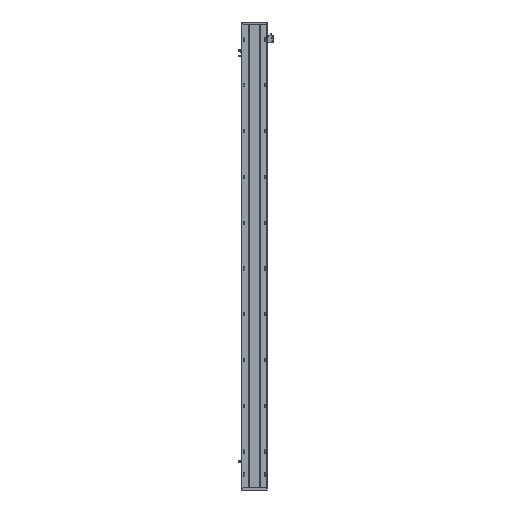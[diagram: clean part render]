
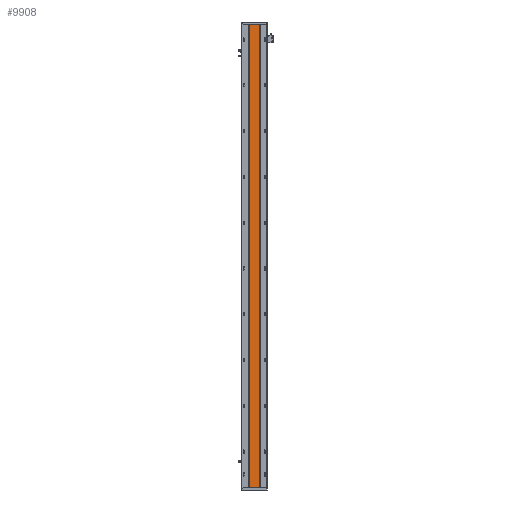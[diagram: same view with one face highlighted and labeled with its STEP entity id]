
A CAD part, front view. The second image highlights one B-rep face of the part: STEP entity #9908.
In plain terms, the highlighted planar face has unit normal (0, -1, 0).
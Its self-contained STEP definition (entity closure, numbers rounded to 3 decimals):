
#1678 = DIRECTION ( 'NONE',  ( 1., 0., 0. ) ) ;
#2085 = EDGE_CURVE ( 'NONE', #21412, #3295, #4440, .T. ) ;
#2773 = LINE ( 'NONE', #11356, #29026 ) ;
#3295 = VERTEX_POINT ( 'NONE', #11452 ) ;
#4440 = LINE ( 'NONE', #27009, #28061 ) ;
#4696 = EDGE_LOOP ( 'NONE', ( #18002, #14760, #18946, #8602 ) ) ;
#6828 = DIRECTION ( 'NONE',  ( 0., 0., -1. ) ) ;
#6859 = FACE_OUTER_BOUND ( 'NONE', #4696, .T. ) ;
#6918 = CARTESIAN_POINT ( 'NONE',  ( 133.07, 115.96, 2188. ) ) ;
#7640 = DIRECTION ( 'NONE',  ( 1., 0., 0. ) ) ;
#7937 = EDGE_CURVE ( 'NONE', #16827, #21412, #30967, .T. ) ;
#8237 = CARTESIAN_POINT ( 'NONE',  ( 133.07, 115.96, 0. ) ) ;
#8602 = ORIENTED_EDGE ( 'NONE', *, *, #7937, .T. ) ;
#9137 = AXIS2_PLACEMENT_3D ( 'NONE', #26141, #18581, #28503 ) ;
#9908 = ADVANCED_FACE ( 'NONE', ( #6859 ), #28080, .F. ) ;
#11356 = CARTESIAN_POINT ( 'NONE',  ( 0., 115.96, 2188. ) ) ;
#11452 = CARTESIAN_POINT ( 'NONE',  ( 183.063, 115.96, 0. ) ) ;
#13650 = CARTESIAN_POINT ( 'NONE',  ( 183.063, 115.96, 2188. ) ) ;
#14760 = ORIENTED_EDGE ( 'NONE', *, *, #30779, .F. ) ;
#16827 = VERTEX_POINT ( 'NONE', #23421 ) ;
#18002 = ORIENTED_EDGE ( 'NONE', *, *, #2085, .T. ) ;
#18581 = DIRECTION ( 'NONE',  ( 0., 1., 0. ) ) ;
#18946 = ORIENTED_EDGE ( 'NONE', *, *, #28605, .F. ) ;
#20983 = DIRECTION ( 'NONE',  ( 0., 0., -1. ) ) ;
#21412 = VERTEX_POINT ( 'NONE', #8237 ) ;
#23421 = CARTESIAN_POINT ( 'NONE',  ( 133.07, 115.96, 2188. ) ) ;
#26141 = CARTESIAN_POINT ( 'NONE',  ( 0., 115.96, 2188. ) ) ;
#26438 = VERTEX_POINT ( 'NONE', #26842 ) ;
#26842 = CARTESIAN_POINT ( 'NONE',  ( 183.063, 115.96, 2188. ) ) ;
#27009 = CARTESIAN_POINT ( 'NONE',  ( 0., 115.96, 0. ) ) ;
#28061 = VECTOR ( 'NONE', #7640, 1000. ) ;
#28080 = PLANE ( 'NONE',  #9137 ) ;
#28503 = DIRECTION ( 'NONE',  ( -1., 0., 0. ) ) ;
#28605 = EDGE_CURVE ( 'NONE', #16827, #26438, #2773, .T. ) ;
#29026 = VECTOR ( 'NONE', #1678, 1000. ) ;
#29069 = VECTOR ( 'NONE', #6828, 1000. ) ;
#30471 = VECTOR ( 'NONE', #20983, 1000. ) ;
#30779 = EDGE_CURVE ( 'NONE', #26438, #3295, #31219, .T. ) ;
#30967 = LINE ( 'NONE', #6918, #29069 ) ;
#31219 = LINE ( 'NONE', #13650, #30471 ) ;
